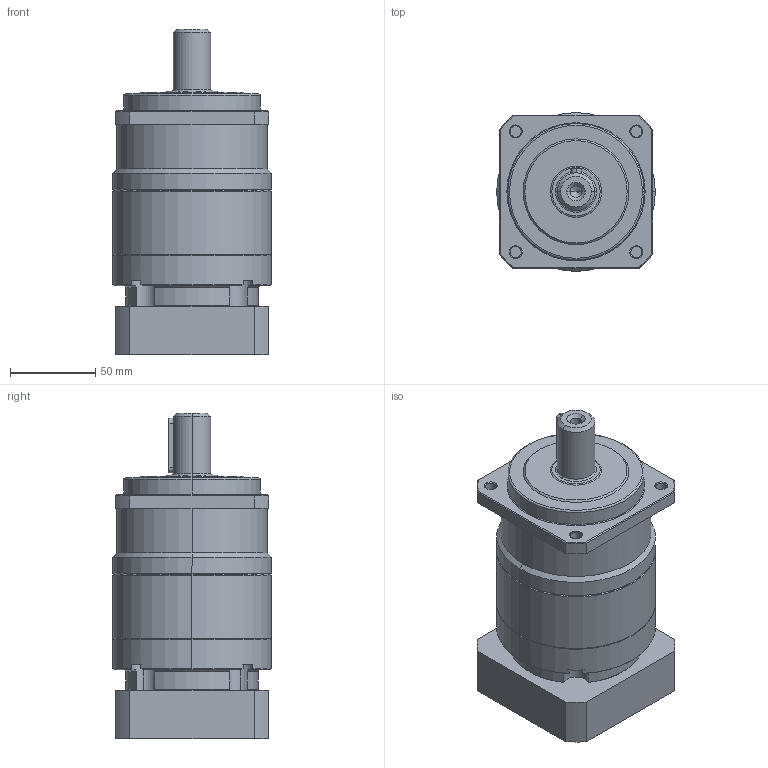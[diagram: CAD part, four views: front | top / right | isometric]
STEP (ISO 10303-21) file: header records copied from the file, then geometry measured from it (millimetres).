
FILE_DESCRIPTION (( 'STEP AP214' ), '1' );
FILE_NAME ('VRB-090-L2-S2-P1 19-70-90-M6.STEP', '2023-05-18T01:09:50', ( '微软用户' ), ( '微软中国' ), 'SwSTEP 2.0', 'SolidWorks 2018', '' );
FILE_SCHEMA (( 'AUTOMOTIVE_DESIGN' ));
Length unit declared in the file: millimetre
Products named in the file (1): VRB-090-L2-S2-P1 19-70-90-M6
Bounding box: 93 x 93 x 191 mm (x, y, z)
Volume: 964074.9 mm3; surface area: 84589.9 mm2
Topology: 1 solids, 1 shells, 161 faces, 389 edges, 244 vertices
Faces by surface type: cylinder 67, cone 45, plane 43, torus 6
Entity records: 4890 total; most frequent: CARTESIAN_POINT 952, DIRECTION 880, ORIENTED_EDGE 774, EDGE_CURVE 387, AXIS2_PLACEMENT_3D 366, VERTEX_POINT 244, CIRCLE 204, EDGE_LOOP 185
